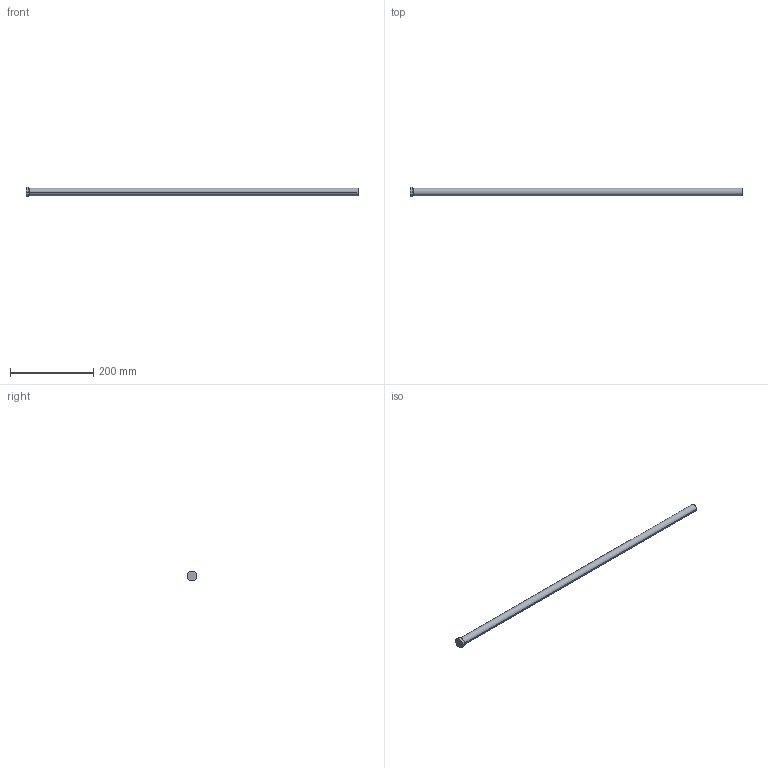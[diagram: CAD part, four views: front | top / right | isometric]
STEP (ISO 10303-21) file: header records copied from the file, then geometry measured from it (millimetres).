
FILE_DESCRIPTION (( 'STEP AP214' ), '1' );
FILE_NAME ('A-18x800.STEP', '2020-05-29T16:23:19', ( 'August' ), ( '' ), 'SwSTEP 2.0', 'SolidWorks 2018', '' );
FILE_SCHEMA (( 'AUTOMOTIVE_DESIGN' ));
Length unit declared in the file: millimetre
Products named in the file (1): A-18x800
Bounding box: 800 x 24 x 24 mm (x, y, z)
Volume: 204968.6 mm3; surface area: 46256.5 mm2
Topology: 1 solids, 1 shells, 9 faces, 16 edges, 10 vertices
Faces by surface type: cylinder 4, plane 3, torus 2
Entity records: 260 total; most frequent: DIRECTION 48, CARTESIAN_POINT 36, ORIENTED_EDGE 32, AXIS2_PLACEMENT_3D 22, EDGE_CURVE 16, CIRCLE 12, EDGE_LOOP 10, VERTEX_POINT 10
